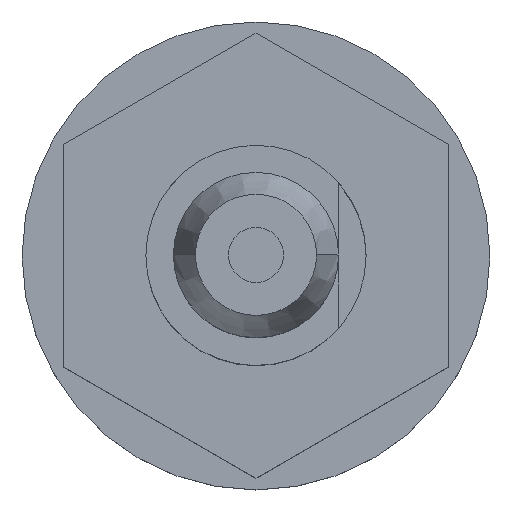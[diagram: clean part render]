
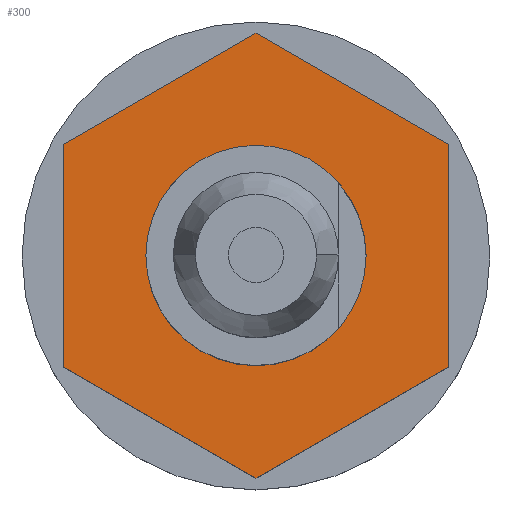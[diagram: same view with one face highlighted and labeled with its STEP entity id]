
A CAD part, top view. The second image highlights one B-rep face of the part: STEP entity #300.
In plain terms, the highlighted planar face has unit normal (0, 0, 1) as drawn and (-1, 0, 0) by its records, which use the part's own axes.
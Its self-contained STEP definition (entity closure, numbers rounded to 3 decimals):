
#300 = ADVANCED_FACE ( 'NONE', ( #1146, #1145 ), #1150, .T. ) ;
#301 = EDGE_LOOP ( 'NONE', ( #302, #306, #357, #360, #363, #366 ) ) ;
#302 = ORIENTED_EDGE ( 'NONE', *, *, #303, .T. ) ;
#303 = EDGE_CURVE ( 'NONE', #304, #305, #1140, .T. ) ;
#304 = VERTEX_POINT ( 'NONE', #1136 ) ;
#305 = VERTEX_POINT ( 'NONE', #1135 ) ;
#306 = ORIENTED_EDGE ( 'NONE', *, *, #355, .T. ) ;
#319 = EDGE_CURVE ( 'NONE', #320, #321, #1121, .T. ) ;
#320 = VERTEX_POINT ( 'NONE', #1184 ) ;
#321 = VERTEX_POINT ( 'NONE', #1183 ) ;
#339 = ORIENTED_EDGE ( 'NONE', *, *, #340, .F. ) ;
#340 = EDGE_CURVE ( 'NONE', #321, #320, #1216, .T. ) ;
#355 = EDGE_CURVE ( 'NONE', #305, #356, #1244, .T. ) ;
#356 = VERTEX_POINT ( 'NONE', #1240 ) ;
#357 = ORIENTED_EDGE ( 'NONE', *, *, #358, .T. ) ;
#358 = EDGE_CURVE ( 'NONE', #356, #359, #1239, .T. ) ;
#359 = VERTEX_POINT ( 'NONE', #1235 ) ;
#360 = ORIENTED_EDGE ( 'NONE', *, *, #361, .T. ) ;
#361 = EDGE_CURVE ( 'NONE', #359, #362, #1234, .T. ) ;
#362 = VERTEX_POINT ( 'NONE', #1230 ) ;
#363 = ORIENTED_EDGE ( 'NONE', *, *, #364, .T. ) ;
#364 = EDGE_CURVE ( 'NONE', #362, #365, #1229, .T. ) ;
#365 = VERTEX_POINT ( 'NONE', #1225 ) ;
#366 = ORIENTED_EDGE ( 'NONE', *, *, #367, .T. ) ;
#367 = EDGE_CURVE ( 'NONE', #365, #304, #1224, .T. ) ;
#368 = EDGE_LOOP ( 'NONE', ( #369, #339 ) ) ;
#369 = ORIENTED_EDGE ( 'NONE', *, *, #319, .F. ) ;
#1120 = AXIS2_PLACEMENT_3D ( 'NONE', #1126, #1186, #1185 ) ;
#1121 = CIRCLE ( 'NONE', #1120, 2. ) ;
#1126 = CARTESIAN_POINT ( 'NONE',  ( 8.1, 0., 0. ) ) ;
#1135 = CARTESIAN_POINT ( 'NONE',  ( 8.1, 4.041, 0. ) ) ;
#1136 = CARTESIAN_POINT ( 'NONE',  ( 8.1, 2.021, 3.5 ) ) ;
#1137 = DIRECTION ( 'NONE',  ( 0., 0.5, -0.866 ) ) ;
#1138 = VECTOR ( 'NONE', #1137, 1000. ) ;
#1139 = CARTESIAN_POINT ( 'NONE',  ( 8.1, 2.021, 3.5 ) ) ;
#1140 = LINE ( 'NONE', #1139, #1138 ) ;
#1141 = DIRECTION ( 'NONE',  ( 0., -1., 0. ) ) ;
#1142 = DIRECTION ( 'NONE',  ( -1., 0., 0. ) ) ;
#1143 = CARTESIAN_POINT ( 'NONE',  ( 8.1, 4.041, 0. ) ) ;
#1144 = AXIS2_PLACEMENT_3D ( 'NONE', #1143, #1142, #1141 ) ;
#1145 = FACE_BOUND ( 'NONE', #368, .T. ) ;
#1146 = FACE_OUTER_BOUND ( 'NONE', #301, .T. ) ;
#1150 = PLANE ( 'NONE',  #1144 ) ;
#1183 = CARTESIAN_POINT ( 'NONE',  ( 8.1, -2., 0. ) ) ;
#1184 = CARTESIAN_POINT ( 'NONE',  ( 8.1, 2., 0. ) ) ;
#1185 = DIRECTION ( 'NONE',  ( 0., -1., 0. ) ) ;
#1186 = DIRECTION ( 'NONE',  ( -1., 0., 0. ) ) ;
#1212 = DIRECTION ( 'NONE',  ( 0., -1., 0. ) ) ;
#1213 = DIRECTION ( 'NONE',  ( -1., 0., 0. ) ) ;
#1214 = CARTESIAN_POINT ( 'NONE',  ( 8.1, 0., 0. ) ) ;
#1215 = AXIS2_PLACEMENT_3D ( 'NONE', #1214, #1213, #1212 ) ;
#1216 = CIRCLE ( 'NONE', #1215, 2. ) ;
#1221 = DIRECTION ( 'NONE',  ( 0., 1., 0. ) ) ;
#1222 = VECTOR ( 'NONE', #1221, 1000. ) ;
#1223 = CARTESIAN_POINT ( 'NONE',  ( 8.1, -2.021, 3.5 ) ) ;
#1224 = LINE ( 'NONE', #1223, #1222 ) ;
#1225 = CARTESIAN_POINT ( 'NONE',  ( 8.1, -2.021, 3.5 ) ) ;
#1226 = DIRECTION ( 'NONE',  ( 0., 0.5, 0.866 ) ) ;
#1227 = VECTOR ( 'NONE', #1226, 1000. ) ;
#1228 = CARTESIAN_POINT ( 'NONE',  ( 8.1, -4.041, 0. ) ) ;
#1229 = LINE ( 'NONE', #1228, #1227 ) ;
#1230 = CARTESIAN_POINT ( 'NONE',  ( 8.1, -4.041, 0. ) ) ;
#1231 = DIRECTION ( 'NONE',  ( 0., -0.5, 0.866 ) ) ;
#1232 = VECTOR ( 'NONE', #1231, 1000. ) ;
#1233 = CARTESIAN_POINT ( 'NONE',  ( 8.1, -2.021, -3.5 ) ) ;
#1234 = LINE ( 'NONE', #1233, #1232 ) ;
#1235 = CARTESIAN_POINT ( 'NONE',  ( 8.1, -2.021, -3.5 ) ) ;
#1236 = DIRECTION ( 'NONE',  ( 0., -1., 0. ) ) ;
#1237 = VECTOR ( 'NONE', #1236, 1000. ) ;
#1238 = CARTESIAN_POINT ( 'NONE',  ( 8.1, 2.021, -3.5 ) ) ;
#1239 = LINE ( 'NONE', #1238, #1237 ) ;
#1240 = CARTESIAN_POINT ( 'NONE',  ( 8.1, 2.021, -3.5 ) ) ;
#1241 = DIRECTION ( 'NONE',  ( 0., -0.5, -0.866 ) ) ;
#1242 = VECTOR ( 'NONE', #1241, 1000. ) ;
#1243 = CARTESIAN_POINT ( 'NONE',  ( 8.1, 4.041, 0. ) ) ;
#1244 = LINE ( 'NONE', #1243, #1242 ) ;
